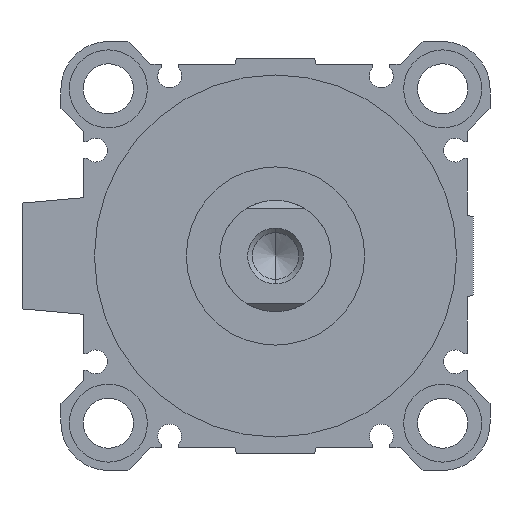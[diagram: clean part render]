
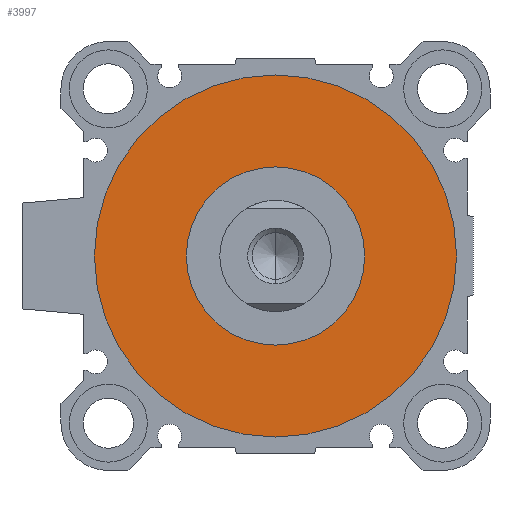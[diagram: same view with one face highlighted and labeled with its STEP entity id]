
A CAD part, left-side view. The second image highlights one B-rep face of the part: STEP entity #3997.
In plain terms, the highlighted planar face has unit normal (-1, 0, 0).
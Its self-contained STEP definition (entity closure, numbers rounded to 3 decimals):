
#468 = AXIS2_PLACEMENT_3D ( 'NONE', #556, #2207, #4727 ) ;
#499 = DIRECTION ( 'NONE',  ( 1., 0., 0. ) ) ;
#556 = CARTESIAN_POINT ( 'NONE',  ( 4., 0., 0. ) ) ;
#722 = CIRCLE ( 'NONE', #468, 16. ) ;
#817 = CIRCLE ( 'NONE', #2050, 32.5 ) ;
#848 = DIRECTION ( 'NONE',  ( 0., 0., -1. ) ) ;
#890 = ORIENTED_EDGE ( 'NONE', *, *, #3480, .F. ) ;
#894 = DIRECTION ( 'NONE',  ( 1., 0., 0. ) ) ;
#925 = FACE_BOUND ( 'NONE', #5117, .T. ) ;
#974 = EDGE_CURVE ( 'NONE', #3801, #4356, #722, .T. ) ;
#1145 = DIRECTION ( 'NONE',  ( 1., 0., 0. ) ) ;
#1387 = CARTESIAN_POINT ( 'NONE',  ( 4., 0., 0. ) ) ;
#1620 = DIRECTION ( 'NONE',  ( 0., 0., -1. ) ) ;
#1840 = VERTEX_POINT ( 'NONE', #3939 ) ;
#2050 = AXIS2_PLACEMENT_3D ( 'NONE', #2605, #499, #848 ) ;
#2092 = AXIS2_PLACEMENT_3D ( 'NONE', #1387, #894, #3416 ) ;
#2176 = DIRECTION ( 'NONE',  ( 1., 0., 0. ) ) ;
#2207 = DIRECTION ( 'NONE',  ( 1., 0., 0. ) ) ;
#2247 = AXIS2_PLACEMENT_3D ( 'NONE', #5136, #2176, #3852 ) ;
#2600 = PLANE ( 'NONE',  #2092 ) ;
#2605 = CARTESIAN_POINT ( 'NONE',  ( 4., 0., 0. ) ) ;
#3008 = FACE_OUTER_BOUND ( 'NONE', #4446, .T. ) ;
#3146 = EDGE_CURVE ( 'NONE', #4356, #3801, #4616, .T. ) ;
#3416 = DIRECTION ( 'NONE',  ( 0., 1., 0. ) ) ;
#3480 = EDGE_CURVE ( 'NONE', #5064, #1840, #3481, .T. ) ;
#3481 = CIRCLE ( 'NONE', #5153, 32.5 ) ;
#3801 = VERTEX_POINT ( 'NONE', #4870 ) ;
#3832 = ORIENTED_EDGE ( 'NONE', *, *, #974, .T. ) ;
#3852 = DIRECTION ( 'NONE',  ( 0., 0., -1. ) ) ;
#3939 = CARTESIAN_POINT ( 'NONE',  ( 4., 0., -32.5 ) ) ;
#3997 = ADVANCED_FACE ( 'NONE', ( #3008, #925 ), #2600, .F. ) ;
#4199 = CARTESIAN_POINT ( 'NONE',  ( 4., 0., -16. ) ) ;
#4356 = VERTEX_POINT ( 'NONE', #4199 ) ;
#4446 = EDGE_LOOP ( 'NONE', ( #890, #4561 ) ) ;
#4492 = CARTESIAN_POINT ( 'NONE',  ( 4., 0., 0. ) ) ;
#4561 = ORIENTED_EDGE ( 'NONE', *, *, #4855, .F. ) ;
#4616 = CIRCLE ( 'NONE', #2247, 16. ) ;
#4727 = DIRECTION ( 'NONE',  ( 0., 0., -1. ) ) ;
#4855 = EDGE_CURVE ( 'NONE', #1840, #5064, #817, .T. ) ;
#4870 = CARTESIAN_POINT ( 'NONE',  ( 4., 0., 16. ) ) ;
#4947 = ORIENTED_EDGE ( 'NONE', *, *, #3146, .T. ) ;
#5064 = VERTEX_POINT ( 'NONE', #5236 ) ;
#5117 = EDGE_LOOP ( 'NONE', ( #3832, #4947 ) ) ;
#5136 = CARTESIAN_POINT ( 'NONE',  ( 4., 0., 0. ) ) ;
#5153 = AXIS2_PLACEMENT_3D ( 'NONE', #4492, #1145, #1620 ) ;
#5236 = CARTESIAN_POINT ( 'NONE',  ( 4., 0., 32.5 ) ) ;
